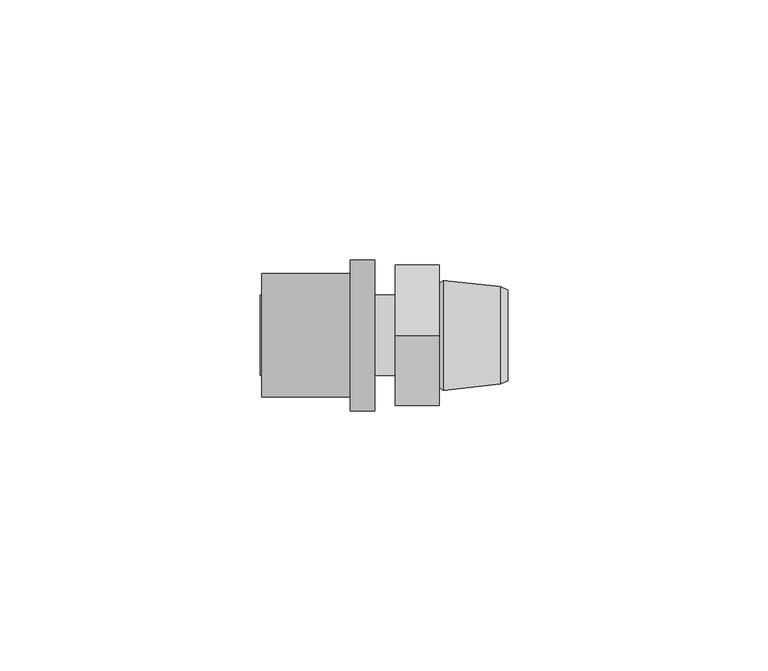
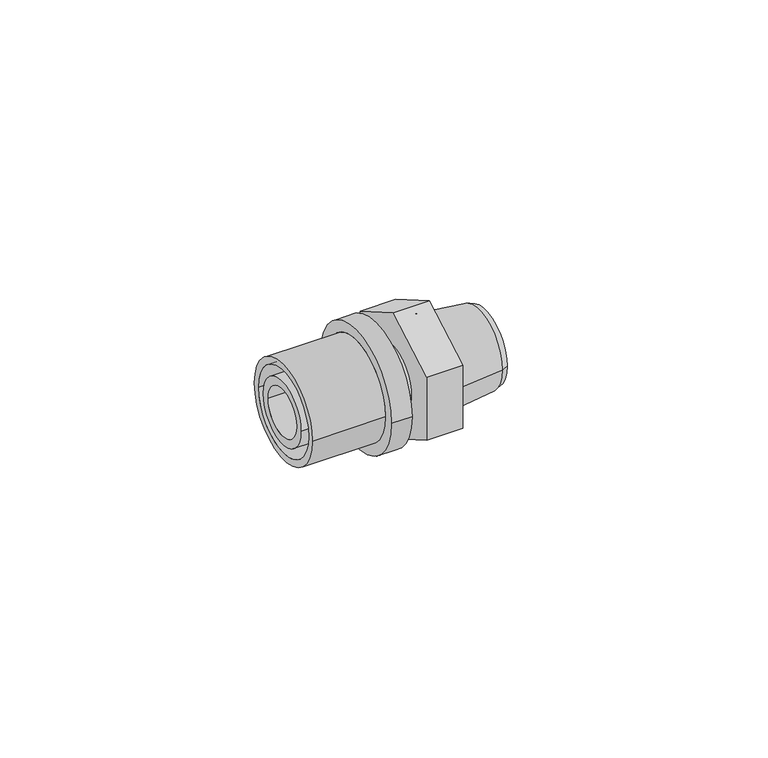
"""IFC4 building model written with IfcOpenShell, lengths in millimetres: pipe fitting geometry, FASTLOC_Adapter_RX+, with external thread : FSL A C external EX+ AT."""

from ifc_helpers import new_model, si_unit, frame, origin, place, context, project, spatial, polyline, circle_curve, outline, extrude, source, transform, mapped, element, save
from ifc_brep_helpers import plane_surface, cylinder_surface, revolved_surface, advanced_brep


def pipe_fitting_5ce0ec79(model_context):
    return source(origin(), model_context, "Body", "SolidModel", [
        advanced_brep(
        [(-8.7, -14.5, 0.0), (-8.7, 14.5, 0.0), (-4.0, 14.5, 0.0), (-4.0, -14.5, 0.0), (-25.7, -11.85, 0.0), (-25.7, 11.85, 0.0), (-8.7, 11.85, 0.0), (-8.7, -11.85, 0.0), (-4.0, -10.15, 0.0), (-4.0, 10.15, 0.0), (-25.7, 10.15, 0.0), (-25.7, -10.15, 0.0)],
        [
            (0, 1, circle_curve(frame((-8.7, 0.0, 0.0), z_axis=(1.0, 0.0, 0.0), x_axis=(0.0, 1.0, 0.0)), 14.5)),
            (1, 2),
            (2, 3, circle_curve(frame((-4.0, 0.0, 0.0), z_axis=(-1.0, 0.0, 0.0), x_axis=(0.0, 1.0, 0.0)), 14.5)),
            (3, 0),
            (4, 5, circle_curve(frame((-25.7, 0.0, 0.0), z_axis=(1.0, 0.0, 0.0), x_axis=(0.0, 1.0, 0.0)), 11.85)),
            (5, 6),
            (6, 7, circle_curve(frame((-8.7, 0.0, 0.0), z_axis=(-1.0, 0.0, 0.0), x_axis=(0.0, 1.0, 0.0)), 11.85)),
            (7, 4),
            (8, 9, circle_curve(frame((-4.0, 0.0, 0.0), z_axis=(1.0, 0.0, 0.0), x_axis=(0.0, 1.0, 0.0)), 10.15)),
            (9, 10),
            (10, 11, circle_curve(frame((-25.7, 0.0, 0.0), z_axis=(-1.0, 0.0, 0.0), x_axis=(0.0, 1.0, 0.0)), 10.15)),
            (11, 8),
            (1, 0, circle_curve(frame((-8.7, 0.0, 0.0), z_axis=(1.0, 0.0, 0.0), x_axis=(0.0, -1.0, 0.0)), 14.5)),
            (3, 2, circle_curve(frame((-4.0, 0.0, 0.0), z_axis=(-1.0, 0.0, 0.0), x_axis=(0.0, -1.0, 0.0)), 14.5)),
            (6, 7, circle_curve(frame((-8.7, 0.0, 0.0), z_axis=(1.0, 0.0, 0.0), x_axis=(0.0, -1.0, 0.0)), 11.85)),
            (5, 4, circle_curve(frame((-25.7, 0.0, 0.0), z_axis=(1.0, 0.0, 0.0), x_axis=(0.0, -1.0, 0.0)), 11.85)),
            (10, 11, circle_curve(frame((-25.7, 0.0, 0.0), z_axis=(1.0, 0.0, 0.0), x_axis=(0.0, -1.0, 0.0)), 10.15)),
            (9, 8, circle_curve(frame((-4.0, 0.0, 0.0), z_axis=(1.0, 0.0, 0.0), x_axis=(0.0, -1.0, 0.0)), 10.15)),
        ],
        [
            cylinder_surface(frame((-4.0, 0.0, 0.0), z_axis=(-1.0, 0.0, 0.0), x_axis=(0.0, 1.0, 0.0)), 14.5),
            cylinder_surface(frame((-4.0, 0.0, 0.0), z_axis=(-1.0, 0.0, 0.0), x_axis=(0.0, 1.0, 0.0)), 11.85),
            revolved_surface(polyline([(-25.7, 10.15, 0.0), (-4.0, 10.15, 0.0)]), (-4.0, 0.0, 0.0), (-1.0, 0.0, 0.0)),
            cylinder_surface(frame((-4.0, 0.0, 0.0), z_axis=(-1.0, 0.0, 0.0), x_axis=(0.0, -1.0, 0.0)), 14.5),
            plane_surface(frame((-8.7, 0.0, 0.0), z_axis=(-1.0, 0.0, 0.0), x_axis=(0.0, -1.0, 0.0))),
            cylinder_surface(frame((-4.0, 0.0, 0.0), z_axis=(-1.0, 0.0, 0.0), x_axis=(0.0, -1.0, 0.0)), 11.85),
            plane_surface(frame((-25.7, 0.0, 0.0), z_axis=(-1.0, 0.0, 0.0), x_axis=(0.0, -1.0, 0.0))),
            revolved_surface(polyline([(-25.7, -10.15, 0.0), (-4.0, -10.15, 0.0)]), (-4.0, 0.0, 0.0), (-1.0, 0.0, 0.0)),
            plane_surface(frame((-4.0, 0.0, 0.0), z_axis=(1.0, 0.0, 0.0), x_axis=(0.0, -1.0, 0.0))),
        ],
        [
            (0, [[1, 2, 3, 4]]),
            (1, [[5, 6, 7, 8]]),
            (2, [[9, 10, 11, 12]]),
            (3, [[13, -4, 14, -2]]),
            (4, [[-13, -1], [15, -7]]),
            (5, [[16, -8, -15, -6]]),
            (6, [[-16, -5], [17, -11]]),
            (7, [[18, -12, -17, -10]]),
            (8, [[-14, -3], [-18, -9]]),
        ],
    ),
        advanced_brep(
        [(9.5032803, 7.5, 0.0), (9.5032803, -7.5, 0.0), (21.6, -7.5, 0.0), (21.6, 7.5, 0.0), (8.4, 6.3967197, 0.0), (8.4, -6.3967197, 0.0), (9.1406902, 10.55, 0.0), (9.1406902, -10.55, 0.0), (8.4, -10.0, 0.0), (8.4, 10.0, 0.0), (20.1000007, 9.35, 0.0), (20.1000007, -9.35, 0.0), (21.6, 8.725, 0.0), (21.6, -8.725, 0.0)],
        [
            (0, 1, circle_curve(frame((9.5032803, 0.0, 0.0), z_axis=(-1.0, 0.0, 0.0), x_axis=(0.0, -1.0, 0.0)), 7.5)),
            (1, 2),
            (2, 3, circle_curve(frame((21.6, 0.0, 0.0), z_axis=(1.0, 0.0, 0.0), x_axis=(0.0, -1.0, 0.0)), 7.5)),
            (3, 0),
            (4, 5, circle_curve(frame((8.4, 0.0, 0.0), z_axis=(-1.0, 0.0, 0.0), x_axis=(0.0, -1.0, 0.0)), 6.3967197)),
            (5, 1),
            (0, 4),
            (6, 7, circle_curve(frame((9.1406902, 0.0, 0.0), z_axis=(-1.0, 0.0, 0.0), x_axis=(0.0, -1.0, 0.0)), 10.55)),
            (7, 8),
            (8, 9, circle_curve(frame((8.4, 0.0, 0.0), z_axis=(1.0, 0.0, 0.0), x_axis=(0.0, -1.0, 0.0)), 10.0)),
            (9, 6),
            (10, 11, circle_curve(frame((20.1000007, 0.0, 0.0), z_axis=(-1.0, 0.0, 0.0), x_axis=(0.0, -1.0, 0.0)), 9.35)),
            (11, 7),
            (6, 10),
            (12, 13, circle_curve(frame((21.6, 0.0, 0.0), z_axis=(-1.0, 0.0, 0.0), x_axis=(0.0, -1.0, 0.0)), 8.725)),
            (13, 11),
            (10, 12),
            (1, 0, circle_curve(frame((9.5032803, 0.0, 0.0), z_axis=(-1.0, 0.0, 0.0), x_axis=(0.0, 1.0, 0.0)), 7.5)),
            (3, 2, circle_curve(frame((21.6, 0.0, 0.0), z_axis=(1.0, 0.0, 0.0), x_axis=(0.0, 1.0, 0.0)), 7.5)),
            (5, 4, circle_curve(frame((8.4, 0.0, 0.0), z_axis=(-1.0, 0.0, 0.0), x_axis=(0.0, 1.0, 0.0)), 6.3967197)),
            (8, 9, circle_curve(frame((8.4, 0.0, 0.0), z_axis=(-1.0, 0.0, 0.0), x_axis=(0.0, 1.0, 0.0)), 10.0)),
            (7, 6, circle_curve(frame((9.1406902, 0.0, 0.0), z_axis=(-1.0, 0.0, 0.0), x_axis=(0.0, 1.0, 0.0)), 10.55)),
            (11, 10, circle_curve(frame((20.1000007, 0.0, 0.0), z_axis=(-1.0, 0.0, 0.0), x_axis=(0.0, 1.0, 0.0)), 9.35)),
            (13, 12, circle_curve(frame((21.6, 0.0, 0.0), z_axis=(-1.0, 0.0, 0.0), x_axis=(0.0, 1.0, 0.0)), 8.725)),
        ],
        [
            revolved_surface(polyline([(21.6, -7.5, 0.0), (9.5032803, -7.5, 0.0)]), (0.0, 0.0, 0.0), (1.0, 0.0, 0.0)),
            revolved_surface(polyline([(9.5032803, -7.5, 0.0), (8.4, -6.3967197, 0.0)]), (0.0, 0.0, 0.0), (1.0, 0.0, 0.0)),
            revolved_surface(polyline([(8.4, -10.0, 0.0), (9.1406902, -10.55, 0.0)]), (0.0, 0.0, 0.0), (1.0, 0.0, 0.0)),
            revolved_surface(polyline([(9.1406902, -10.55, 0.0), (20.1000007, -9.35, 0.0)]), (0.0, 0.0, 0.0), (1.0, 0.0, 0.0)),
            revolved_surface(polyline([(20.1000007, -9.35, 0.0), (21.6, -8.725, 0.0)]), (0.0, 0.0, 0.0), (1.0, 0.0, 0.0)),
            revolved_surface(polyline([(21.6, 7.5, 0.0), (9.5032803, 7.5, 0.0)]), (0.0, 0.0, 0.0), (1.0, 0.0, 0.0)),
            revolved_surface(polyline([(9.5032803, 7.5, 0.0), (8.4, 6.3967197, 0.0)]), (0.0, 0.0, 0.0), (1.0, 0.0, 0.0)),
            plane_surface(frame((8.4, 0.0, 0.0), z_axis=(-1.0, 0.0, 0.0), x_axis=(0.0, 1.0, 0.0))),
            revolved_surface(polyline([(8.4, 10.0, 0.0), (9.1406902, 10.55, 0.0)]), (0.0, 0.0, 0.0), (1.0, 0.0, 0.0)),
            revolved_surface(polyline([(9.1406902, 10.55, 0.0), (20.1000007, 9.35, 0.0)]), (0.0, 0.0, 0.0), (1.0, 0.0, 0.0)),
            revolved_surface(polyline([(20.1000007, 9.35, 0.0), (21.6, 8.725, 0.0)]), (0.0, 0.0, 0.0), (1.0, 0.0, 0.0)),
            plane_surface(frame((21.6, 0.0, 0.0), z_axis=(1.0, 0.0, 0.0), x_axis=(0.0, 1.0, 0.0))),
        ],
        [
            (0, [[1, 2, 3, 4]]),
            (1, [[5, 6, -1, 7]]),
            (2, [[8, 9, 10, 11]]),
            (3, [[12, 13, -8, 14]]),
            (4, [[15, 16, -12, 17]]),
            (5, [[18, -4, 19, -2]]),
            (6, [[20, -7, -18, -6]]),
            (7, [[21, -10], [-20, -5]]),
            (8, [[22, -11, -21, -9]]),
            (9, [[23, -14, -22, -13]]),
            (10, [[24, -17, -23, -16]]),
            (11, [[-24, -15], [-19, -3]]),
        ],
    ),
        extrude(outline(polyline([(-13.5, 7.7942286), (0.0, 15.5884573), (13.5, 7.7942286), (13.5, -7.7942286), (0.0, -15.5884573), (-13.5, -7.7942286), (-13.5, 7.7942286)])), frame((0.0, 0.0, 0.0), z_axis=(1.0, 0.0, 0.0), x_axis=(0.0, 1.0, 0.0)), (0.0, 0.0, 1.0), 8.4),
        advanced_brep(
        [(-26.0, 5.75, 0.0), (-26.0, -5.75, 0.0), (0.0, -5.75, 0.0), (0.0, 5.75, 0.0), (0.0, 7.75, 0.0), (0.0, -7.75, 0.0), (-6.0, -7.75, 0.0), (-6.0, 7.75, 0.0), (-6.0, 8.8, 0.0), (-6.0, -8.8, 0.0), (-8.7, -8.8, 0.0), (-8.7, 8.8, 0.0), (-8.7, 7.75, 0.0), (-8.7, -7.75, 0.0), (-26.0, -7.75, 0.0), (-26.0, 7.75, 0.0)],
        [
            (0, 1, circle_curve(frame((-26.0, 0.0, 0.0), z_axis=(-1.0, 0.0, 0.0), x_axis=(0.0, -1.0, 0.0)), 5.75)),
            (1, 2),
            (2, 3, circle_curve(frame((0.0, 0.0, 0.0), z_axis=(1.0, 0.0, 0.0), x_axis=(0.0, -1.0, 0.0)), 5.75)),
            (3, 0),
            (4, 5, circle_curve(frame((0.0, 0.0, 0.0), z_axis=(-1.0, 0.0, 0.0), x_axis=(0.0, -1.0, 0.0)), 7.75)),
            (5, 6),
            (6, 7, circle_curve(frame((-6.0, 0.0, 0.0), z_axis=(1.0, 0.0, 0.0), x_axis=(0.0, -1.0, 0.0)), 7.75)),
            (7, 4),
            (8, 9, circle_curve(frame((-6.0, 0.0, 0.0), z_axis=(-1.0, 0.0, 0.0), x_axis=(0.0, -1.0, 0.0)), 8.8)),
            (9, 10),
            (10, 11, circle_curve(frame((-8.7, 0.0, 0.0), z_axis=(1.0, 0.0, 0.0), x_axis=(0.0, -1.0, 0.0)), 8.8)),
            (11, 8),
            (12, 13, circle_curve(frame((-8.7, 0.0, 0.0), z_axis=(-1.0, 0.0, 0.0), x_axis=(0.0, -1.0, 0.0)), 7.75)),
            (13, 14),
            (14, 15, circle_curve(frame((-26.0, 0.0, 0.0), z_axis=(1.0, 0.0, 0.0), x_axis=(0.0, -1.0, 0.0)), 7.75)),
            (15, 12),
            (1, 0, circle_curve(frame((-26.0, 0.0, 0.0), z_axis=(-1.0, 0.0, 0.0), x_axis=(0.0, 1.0, 0.0)), 5.75)),
            (3, 2, circle_curve(frame((0.0, 0.0, 0.0), z_axis=(1.0, 0.0, 0.0), x_axis=(0.0, 1.0, 0.0)), 5.75)),
            (4, 5, circle_curve(frame((0.0, 0.0, 0.0), z_axis=(1.0, 0.0, 0.0), x_axis=(0.0, 1.0, 0.0)), 7.75)),
            (7, 6, circle_curve(frame((-6.0, 0.0, 0.0), z_axis=(1.0, 0.0, 0.0), x_axis=(0.0, 1.0, 0.0)), 7.75)),
            (8, 9, circle_curve(frame((-6.0, 0.0, 0.0), z_axis=(1.0, 0.0, 0.0), x_axis=(0.0, 1.0, 0.0)), 8.8)),
            (11, 10, circle_curve(frame((-8.7, 0.0, 0.0), z_axis=(1.0, 0.0, 0.0), x_axis=(0.0, 1.0, 0.0)), 8.8)),
            (12, 13, circle_curve(frame((-8.7, 0.0, 0.0), z_axis=(1.0, 0.0, 0.0), x_axis=(0.0, 1.0, 0.0)), 7.75)),
            (15, 14, circle_curve(frame((-26.0, 0.0, 0.0), z_axis=(1.0, 0.0, 0.0), x_axis=(0.0, 1.0, 0.0)), 7.75)),
        ],
        [
            revolved_surface(polyline([(0.0, -5.75, 0.0), (-26.0, -5.75, 0.0)]), (0.0, 0.0, 0.0), (1.0, 0.0, 0.0)),
            cylinder_surface(frame((0.0, 0.0, 0.0), z_axis=(1.0, 0.0, 0.0), x_axis=(0.0, -1.0, 0.0)), 7.75),
            cylinder_surface(frame((0.0, 0.0, 0.0), z_axis=(1.0, 0.0, 0.0), x_axis=(0.0, -1.0, 0.0)), 8.8),
            revolved_surface(polyline([(0.0, 5.75, 0.0), (-26.0, 5.75, 0.0)]), (0.0, 0.0, 0.0), (1.0, 0.0, 0.0)),
            plane_surface(frame((0.0, 0.0, 0.0), z_axis=(1.0, 0.0, 0.0), x_axis=(0.0, 1.0, 0.0))),
            cylinder_surface(frame((0.0, 0.0, 0.0), z_axis=(1.0, 0.0, 0.0), x_axis=(0.0, 1.0, 0.0)), 7.75),
            plane_surface(frame((-6.0, 0.0, 0.0), z_axis=(1.0, 0.0, 0.0), x_axis=(0.0, 1.0, 0.0))),
            cylinder_surface(frame((0.0, 0.0, 0.0), z_axis=(1.0, 0.0, 0.0), x_axis=(0.0, 1.0, 0.0)), 8.8),
            plane_surface(frame((-8.7, 0.0, 0.0), z_axis=(-1.0, 0.0, 0.0), x_axis=(0.0, 1.0, 0.0))),
            plane_surface(frame((-26.0, 0.0, 0.0), z_axis=(-1.0, 0.0, 0.0), x_axis=(0.0, 1.0, 0.0))),
        ],
        [
            (0, [[1, 2, 3, 4]]),
            (1, [[5, 6, 7, 8]]),
            (2, [[9, 10, 11, 12]]),
            (1, [[13, 14, 15, 16]]),
            (3, [[17, -4, 18, -2]]),
            (4, [[19, -5], [-18, -3]]),
            (5, [[-19, -8, 20, -6]]),
            (6, [[21, -9], [-20, -7]]),
            (7, [[-21, -12, 22, -10]]),
            (8, [[-22, -11], [23, -13]]),
            (5, [[-23, -16, 24, -14]]),
            (9, [[-24, -15], [-17, -1]]),
        ],
    ),
    ])


if __name__ == "__main__":
    model = new_model("IFC4")
    model_context = context("Model", 3, world=origin())
    ifc_project = project(units=[si_unit("LENGTHUNIT", "METRE", prefix="MILLI")], contexts=[model_context])
    site = spatial("IfcSite", under=ifc_project)
    building = spatial("IfcBuilding", under=site)
    placement = place(None, origin())
    pipe_fitting_shape = pipe_fitting_5ce0ec79(model_context)
    element("IfcPipeFitting", 1, ObjectType="FASTLOC_Adapter_RX+, with external thread : FSL A C external EX+ AT", at=placement, inside=building, context=model_context, shape_type="MappedRepresentation", body=[
        mapped(pipe_fitting_shape, transform((0.0, 0.0, 0.0), x_axis=(1.0, 0.0, 0.0), y_axis=(0.0, 1.0, 0.0), z_axis=(0.0, 0.0, 1.0))),
    ])
    save(model, "model.ifc")
